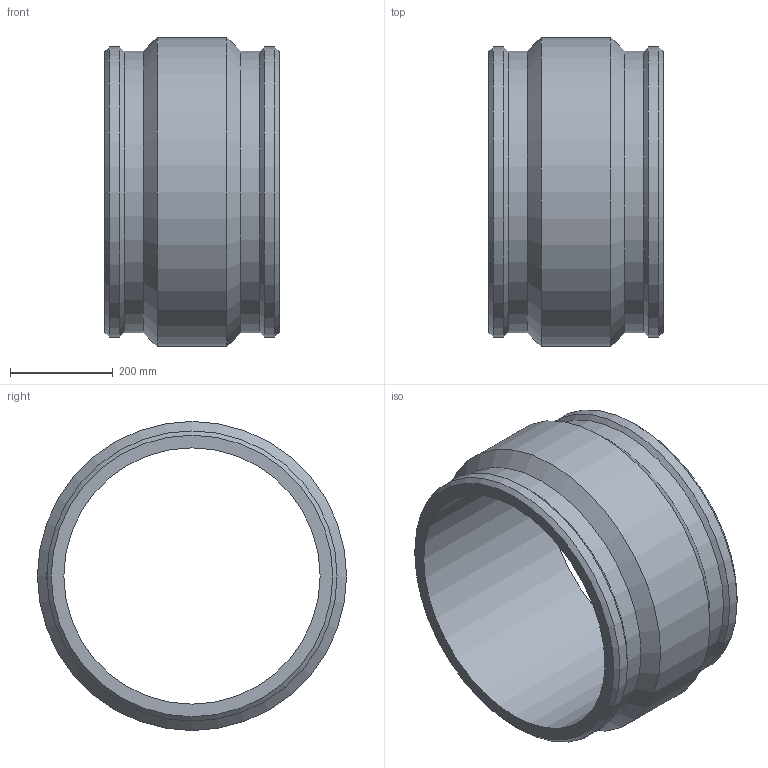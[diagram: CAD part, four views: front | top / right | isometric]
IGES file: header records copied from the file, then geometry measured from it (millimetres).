
Global section: file name: 490103500.ipt; native system: Autodesk Inventor 2015; preprocessor: unknown; author: KIM; date: 20171106.093524; units: millimetre
Bounding box: 340 x 603 x 603 mm (x, y, z)
Volume: 22528413.5 mm3; surface area: 1298261.9 mm2
Topology: 1 solids, 1 shells, 28 faces, 52 edges, 30 vertices
Faces by surface type: cylinder 11, plane 8, cone 6, revolution 3
Full cylindrical faces by diameter (mm): 4 x2, 549.02 x2, 566 x2, 603 x1
